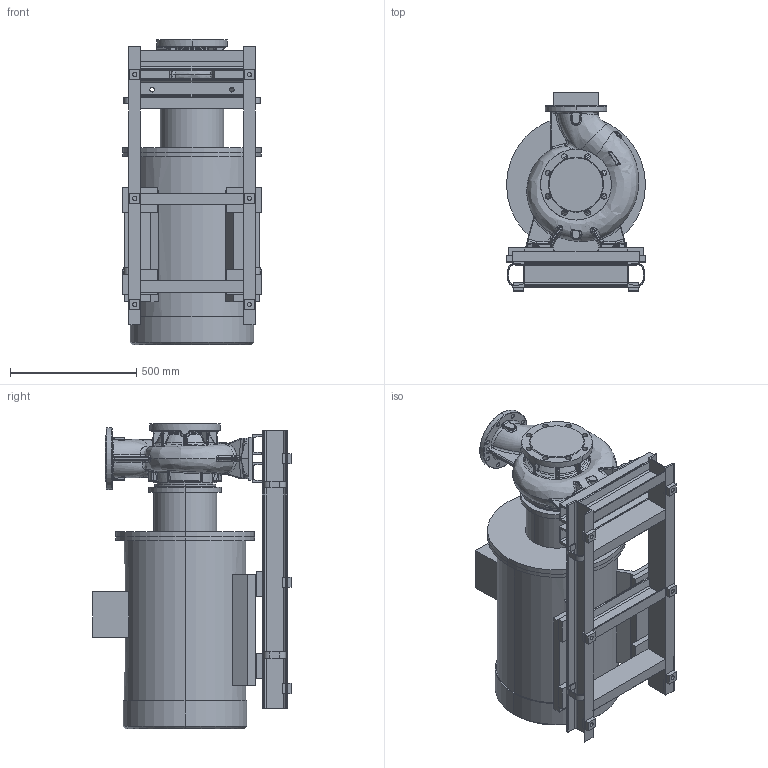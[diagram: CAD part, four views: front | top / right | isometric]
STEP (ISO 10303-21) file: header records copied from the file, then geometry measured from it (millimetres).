
FILE_DESCRIPTION (( 'STEP AP203' ), '1' );
FILE_NAME ('KRM 150-125-200-2-75.STEP', '2026-08-18T06:21:42', ( '' ), ( '' ), 'SwSTEP 2.0', 'SolidWorks 2016', '' );
FILE_SCHEMA (( 'CONFIG_CONTROL_DESIGN' ));
Length unit declared in the file: millimetre
Products named in the file (1): KRM 150-125-200-2-75
Bounding box: 550 x 785 x 1209.5 mm (x, y, z)
Volume: 195391395.6 mm3; surface area: 5833428.6 mm2
Topology: 34 solids, 34 shells, 1499 faces, 3643 edges, 2215 vertices
Faces by surface type: bspline 499, plane 415, cylinder 362, torus 93, cone 79, sphere 51
Entity records: 75098 total; most frequent: CARTESIAN_POINT 43610, ORIENTED_EDGE 7242, DIRECTION 5671, EDGE_CURVE 3621, AXIS2_PLACEMENT_3D 2243, VERTEX_POINT 2215, EDGE_LOOP 1610, FACE_OUTER_BOUND 1499
